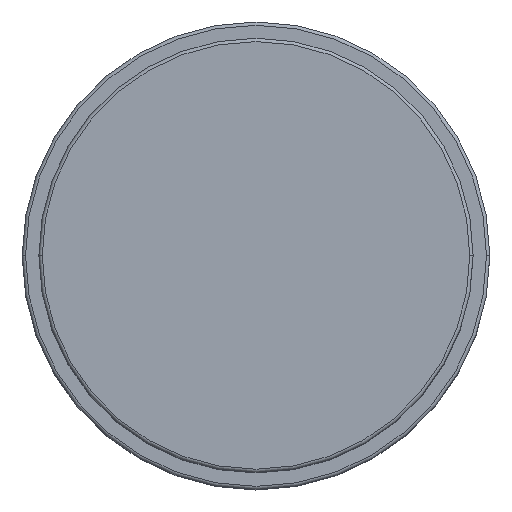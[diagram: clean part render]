
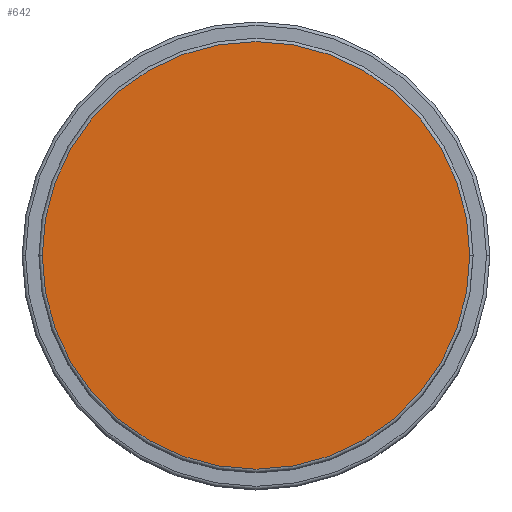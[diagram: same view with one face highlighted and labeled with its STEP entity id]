
A CAD part, top view. The second image highlights one B-rep face of the part: STEP entity #642.
In plain terms, the highlighted planar face has unit normal (0, 0, 1).
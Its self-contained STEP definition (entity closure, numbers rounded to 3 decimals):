
#7 = PLANE ( 'NONE',  #1683 ) ;
#52 = ORIENTED_EDGE ( 'NONE', *, *, #1664, .T. ) ;
#339 = CARTESIAN_POINT ( 'NONE',  ( 32., 0., 67. ) ) ;
#387 = VERTEX_POINT ( 'NONE', #339 ) ;
#441 = DIRECTION ( 'NONE',  ( 0., 0., 1. ) ) ;
#615 = DIRECTION ( 'NONE',  ( 1., 0., 0. ) ) ;
#642 = ADVANCED_FACE ( 'NONE', ( #1059 ), #7, .T. ) ;
#681 = DIRECTION ( 'NONE',  ( 1., 0., 0. ) ) ;
#703 = AXIS2_PLACEMENT_3D ( 'NONE', #1180, #1581, #615 ) ;
#716 = CIRCLE ( 'NONE', #1560, 32. ) ;
#916 = EDGE_CURVE ( 'NONE', #1786, #387, #716, .T. ) ;
#946 = CIRCLE ( 'NONE', #703, 32. ) ;
#965 = EDGE_LOOP ( 'NONE', ( #52, #1739 ) ) ;
#1059 = FACE_OUTER_BOUND ( 'NONE', #965, .T. ) ;
#1154 = DIRECTION ( 'NONE',  ( 1., 0., 0. ) ) ;
#1180 = CARTESIAN_POINT ( 'NONE',  ( 0., 0., 67. ) ) ;
#1241 = CARTESIAN_POINT ( 'NONE',  ( 0., 0., 67. ) ) ;
#1289 = CARTESIAN_POINT ( 'NONE',  ( 0., 0., 67. ) ) ;
#1354 = CARTESIAN_POINT ( 'NONE',  ( -32., 0., 67. ) ) ;
#1508 = DIRECTION ( 'NONE',  ( 0., 0., 1. ) ) ;
#1560 = AXIS2_PLACEMENT_3D ( 'NONE', #1289, #441, #1154 ) ;
#1581 = DIRECTION ( 'NONE',  ( 0., 0., 1. ) ) ;
#1664 = EDGE_CURVE ( 'NONE', #387, #1786, #946, .T. ) ;
#1683 = AXIS2_PLACEMENT_3D ( 'NONE', #1241, #1508, #681 ) ;
#1739 = ORIENTED_EDGE ( 'NONE', *, *, #916, .T. ) ;
#1786 = VERTEX_POINT ( 'NONE', #1354 ) ;
